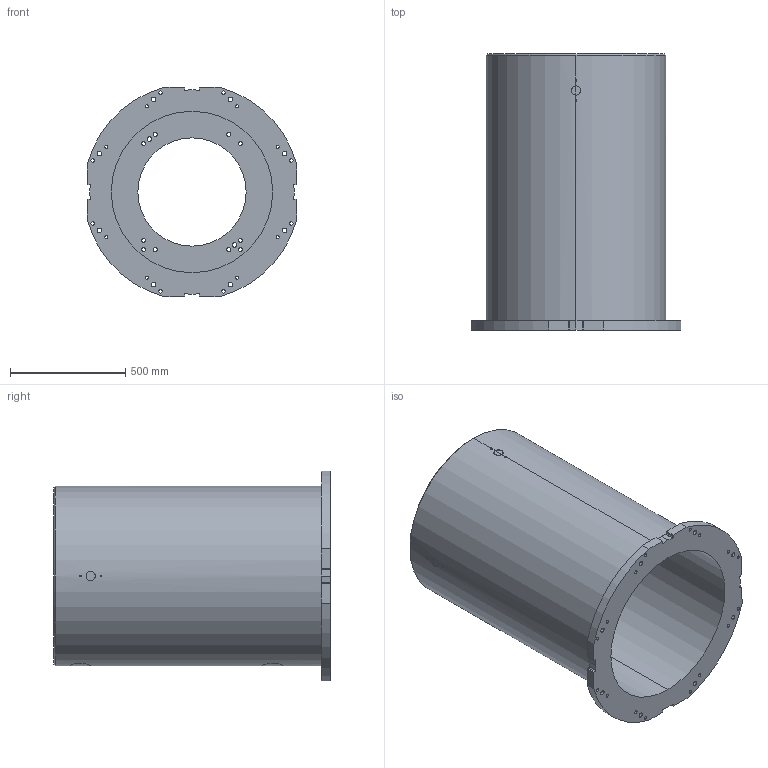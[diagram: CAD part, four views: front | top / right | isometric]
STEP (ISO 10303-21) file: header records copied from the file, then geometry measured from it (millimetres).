
FILE_DESCRIPTION (( 'STEP AP214' ), '1' );
FILE_NAME ('P-1200.STEP', '2024-01-24T08:47:26', ( '' ), ( '' ), 'SwSTEP 2.0', 'SolidWorks 2022', '' );
FILE_SCHEMA (( 'AUTOMOTIVE_DESIGN' ));
Length unit declared in the file: millimetre
Products named in the file (1): P-1200
Bounding box: 910 x 1200 x 910 mm (x, y, z)
Volume: 127143258.7 mm3; surface area: 6640772.5 mm2
Topology: 1 solids, 1 shells, 203 faces, 565 edges, 376 vertices
Faces by surface type: cylinder 149, plane 28, bspline 24, cone 2
Entity records: 12485 total; most frequent: CARTESIAN_POINT 6354, ORIENTED_EDGE 1130, DIRECTION 969, EDGE_CURVE 565, AXIS2_PLACEMENT_3D 378, VERTEX_POINT 376, EDGE_LOOP 289, VECTOR 213
